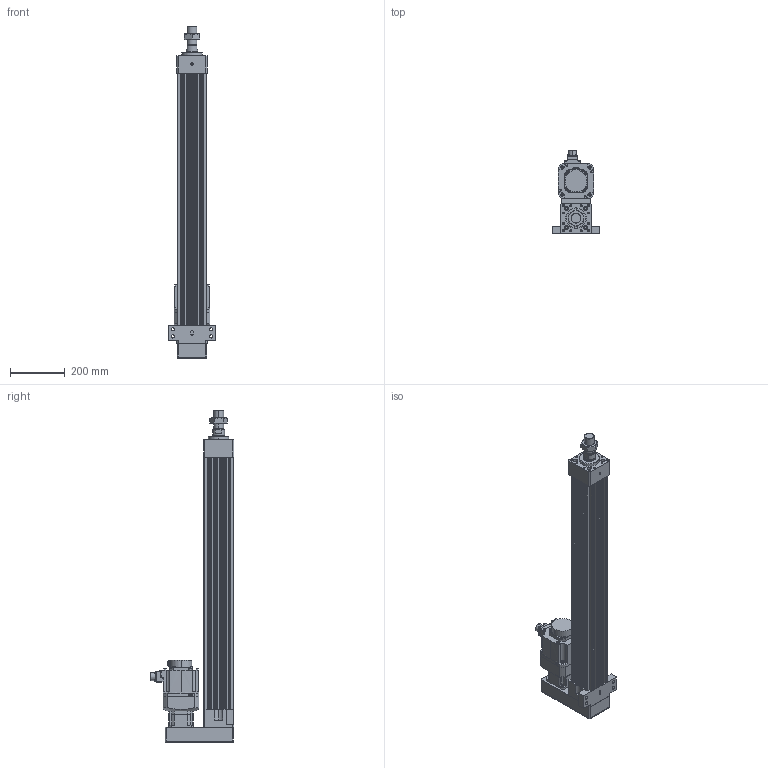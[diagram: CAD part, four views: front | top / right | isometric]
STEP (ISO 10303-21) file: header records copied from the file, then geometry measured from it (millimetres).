
FILE_DESCRIPTION (( 'STEP AP203' ), '1' );
FILE_NAME ('HES110NS(HS)-P750-W010G00-M-FFC.STEP', '2023-01-26T10:31:36', ( 'tms' ), ( '' ), 'SwSTEP 2.0', 'SolidWorks 2013', '' );
FILE_SCHEMA (( 'CONFIG_CONTROL_DESIGN' ));
Length unit declared in the file: millimetre
Products named in the file (8): HG-SR102; HES110NS(HS)-P750-W010G00-M-FFC; HES110-P750-G090-FFC; AB090-003[HG-SR102B]; AB0901; HES110 ROD M ST750; M36X1.5P; P0401301004
Assembly tree (7 placements, depth 3):
  HES110NS(HS)-P750-W010G00-M-FFC
    HES110-P750-G090-FFC
    HES110 ROD M ST750
    M36X1.5P
    AB090-003[HG-SR102B]
      AB0901
      P0401301004
    HG-SR102
Bounding box: 170 x 304.99 x 1213 mm (x, y, z)
Volume: 10197246.7 mm3; surface area: 1378158.9 mm2
Topology: 4 solids, 11 shells, 1111 faces, 2835 edges, 1826 vertices
Faces by surface type: cylinder 519, plane 486, cone 94, bspline 8, torus 4
Entity records: 35472 total; most frequent: CARTESIAN_POINT 6938, DIRECTION 6110, ORIENTED_EDGE 5574, EDGE_CURVE 2797, AXIS2_PLACEMENT_3D 2269, VERTEX_POINT 1826, VECTOR 1572, LINE 1572
